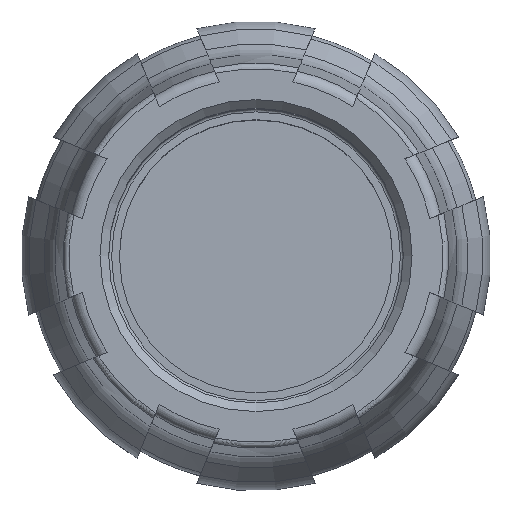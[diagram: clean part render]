
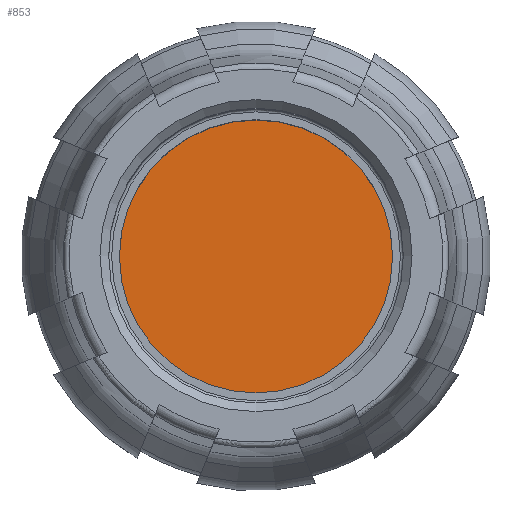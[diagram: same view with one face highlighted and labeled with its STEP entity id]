
A CAD part, top view. The second image highlights one B-rep face of the part: STEP entity #853.
In plain terms, the highlighted planar face has unit normal (0, 0, 1).
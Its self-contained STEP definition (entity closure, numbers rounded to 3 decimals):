
#853 = ADVANCED_FACE( '', ( #1744 ), #1745, .F. );
#1744 = FACE_OUTER_BOUND( '', #3873, .T. );
#1745 = PLANE( '', #3874 );
#3873 = EDGE_LOOP( '', ( #6189 ) );
#3874 = AXIS2_PLACEMENT_3D( '', #6190, #6191, #6192 );
#6189 = ORIENTED_EDGE( '', *, *, #7284, .T. );
#6190 = CARTESIAN_POINT( '', ( -29.61, 0., -104.525 ) );
#6191 = DIRECTION( '', ( 0., 0., -1. ) );
#6192 = DIRECTION( '', ( -1., 0., 0. ) );
#7284 = EDGE_CURVE( '', #8699, #8699, #8700, .F. );
#8699 = VERTEX_POINT( '', #12247 );
#8700 = CIRCLE( '', #12248, 29.636 );
#12247 = CARTESIAN_POINT( '', ( 0., 29.636, -104.525 ) );
#12248 = AXIS2_PLACEMENT_3D( '', #13435, #13436, #13437 );
#13435 = CARTESIAN_POINT( '', ( 0., 0., -104.525 ) );
#13436 = DIRECTION( '', ( 0., 0., -1. ) );
#13437 = DIRECTION( '', ( 0., 1., 0. ) );
